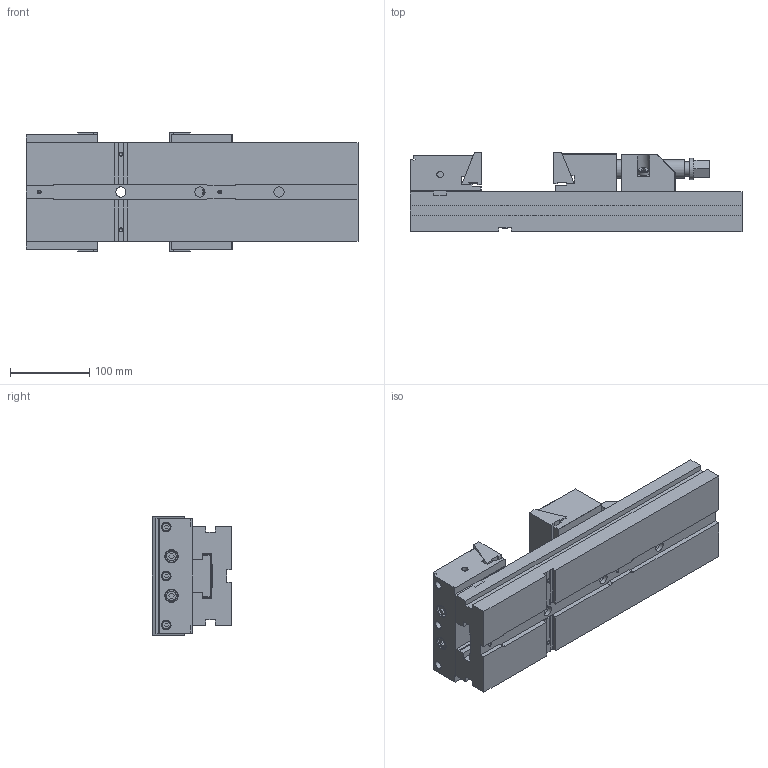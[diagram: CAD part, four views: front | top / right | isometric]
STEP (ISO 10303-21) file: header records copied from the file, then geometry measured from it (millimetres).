
FILE_DESCRIPTION(/* description */ (''),/* implementation_level */ '2;1');
FILE_NAME(/* name */ '',/* time_stamp */ '2025-05-29T10:40:51+03:00',/* author */ ('User'),/* organization */ (''),/* preprocessor_version */ 'ST-DEVELOPER v19.2',/* originating_system */ 'Autodesk Inventor 2024',/* authorisation */ '');
FILE_SCHEMA (('AUTOMOTIVE_DESIGN { 1 0 10303 214 3 1 1 }'));
Length unit declared in the file: millimetre
Products named in the file (5): Тиски GT125; Станина; Винт; Подвижная часть; Упор с шаром
Assembly tree (4 placements, depth 2):
  Тиски GT125
    Станина
    Винт
    Подвижная часть
    Упор с шаром
Bounding box: 420 x 100 x 150 mm (x, y, z)
Volume: 3332611.3 mm3; surface area: 399235.6 mm2
Topology: 6 solids, 6 shells, 545 faces, 1349 edges, 879 vertices
Faces by surface type: plane 408, cylinder 83, cone 48, bspline 5, sphere 1
Full cylindrical faces by diameter (mm): 4.134 x4, 7.8 x2, 8 x4, 9.8 x5, 10 x14, 12 x2, 12.5 x2, 13 x5, 14 x5, 15 x4, 18 x3, 20 x8, 21 x1, 22.5 x4, 24 x1, 27 x1
Entity records: 16427 total; most frequent: CARTESIAN_POINT 2927, ORIENTED_EDGE 2674, DIRECTION 2648, EDGE_CURVE 1337, LINE 1088, VECTOR 1088, VERTEX_POINT 879, AXIS2_PLACEMENT_3D 780
